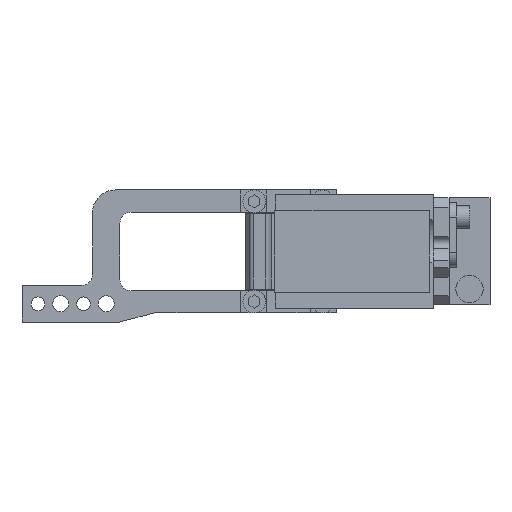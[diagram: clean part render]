
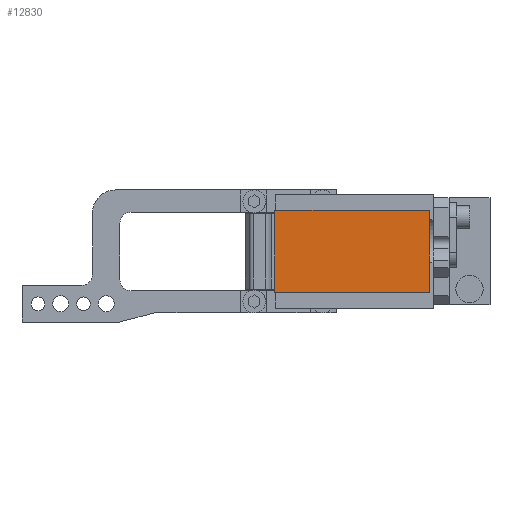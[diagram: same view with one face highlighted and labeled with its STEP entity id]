
A CAD part, front view. The second image highlights one B-rep face of the part: STEP entity #12830.
In plain terms, the highlighted planar face has unit normal (0, -1, 0).
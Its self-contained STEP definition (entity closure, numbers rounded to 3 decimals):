
#346 = CARTESIAN_POINT ( 'NONE',  ( 0., -233., 0. ) ) ;
#621 = CARTESIAN_POINT ( 'NONE',  ( -6., -233., 18. ) ) ;
#890 = VERTEX_POINT ( 'NONE', #2980 ) ;
#1014 = ORIENTED_EDGE ( 'NONE', *, *, #10894, .T. ) ;
#1018 = ORIENTED_EDGE ( 'NONE', *, *, #12810, .T. ) ;
#1397 = EDGE_CURVE ( 'NONE', #1455, #890, #8402, .T. ) ;
#1420 = EDGE_LOOP ( 'NONE', ( #1857, #6922, #1014, #1018 ) ) ;
#1455 = VERTEX_POINT ( 'NONE', #621 ) ;
#1606 = DIRECTION ( 'NONE',  ( -1., 0., 0. ) ) ;
#1631 = VERTEX_POINT ( 'NONE', #4576 ) ;
#1764 = EDGE_CURVE ( 'NONE', #890, #5883, #6064, .T. ) ;
#1857 = ORIENTED_EDGE ( 'NONE', *, *, #1397, .T. ) ;
#2504 = PLANE ( 'NONE',  #7421 ) ;
#2611 = CARTESIAN_POINT ( 'NONE',  ( -6., -233., -18. ) ) ;
#2980 = CARTESIAN_POINT ( 'NONE',  ( -6., -233., -18. ) ) ;
#4034 = DIRECTION ( 'NONE',  ( 1., 0., 0. ) ) ;
#4576 = CARTESIAN_POINT ( 'NONE',  ( 62., -233., 18. ) ) ;
#4911 = DIRECTION ( 'NONE',  ( 0., 0., -1. ) ) ;
#5706 = DIRECTION ( 'NONE',  ( 0., 0., 1. ) ) ;
#5883 = VERTEX_POINT ( 'NONE', #10523 ) ;
#6064 = LINE ( 'NONE', #2611, #10916 ) ;
#6922 = ORIENTED_EDGE ( 'NONE', *, *, #1764, .T. ) ;
#7421 = AXIS2_PLACEMENT_3D ( 'NONE', #346, #9327, #4911 ) ;
#8202 = CARTESIAN_POINT ( 'NONE',  ( -6., -233., 18. ) ) ;
#8402 = LINE ( 'NONE', #12051, #9451 ) ;
#9327 = DIRECTION ( 'NONE',  ( 0., -1., 0. ) ) ;
#9451 = VECTOR ( 'NONE', #11976, 1000. ) ;
#10030 = VECTOR ( 'NONE', #5706, 1000. ) ;
#10269 = LINE ( 'NONE', #14523, #10030 ) ;
#10523 = CARTESIAN_POINT ( 'NONE',  ( 62., -233., -18. ) ) ;
#10587 = FACE_OUTER_BOUND ( 'NONE', #1420, .T. ) ;
#10894 = EDGE_CURVE ( 'NONE', #5883, #1631, #10269, .T. ) ;
#10916 = VECTOR ( 'NONE', #4034, 1000. ) ;
#11697 = LINE ( 'NONE', #8202, #13147 ) ;
#11976 = DIRECTION ( 'NONE',  ( 0., 0., -1. ) ) ;
#12051 = CARTESIAN_POINT ( 'NONE',  ( -6., -233., 18. ) ) ;
#12810 = EDGE_CURVE ( 'NONE', #1631, #1455, #11697, .T. ) ;
#12830 = ADVANCED_FACE ( 'NONE', ( #10587 ), #2504, .T. ) ;
#13147 = VECTOR ( 'NONE', #1606, 1000. ) ;
#14523 = CARTESIAN_POINT ( 'NONE',  ( 62., -233., 18. ) ) ;
